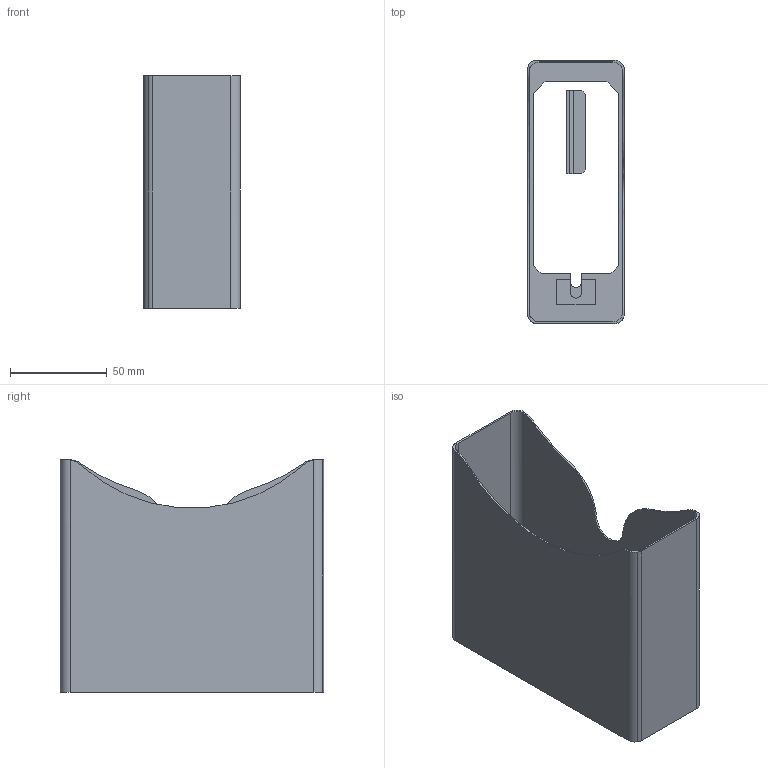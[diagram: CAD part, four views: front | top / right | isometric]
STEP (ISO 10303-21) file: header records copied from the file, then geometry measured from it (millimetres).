
FILE_DESCRIPTION(/* description */ (''),/* implementation_level */ '2;1');
FILE_NAME(/* name */ 'C:/Users/tatsu/Desktop/EyeRec_fix_3d/eyerec.stp',/* time_stamp */ '2026-05-14T22:04:41+09:00',/* author */ (''),/* organization */ (''),/* preprocessor_version */ 'ST-DEVELOPER v15.2',/* originating_system */ 'Autodesk Translator Framework v2.0.0.5431',/* authorisation */ '');
FILE_SCHEMA (('AUTOMOTIVE_DESIGN { 1 0 10303 214 3 1 1 }'));
Length unit declared in the file: centimetre
Products named in the file (1): eyerec
Bounding box: 50 x 136 x 120 mm (x, y, z)
Volume: 40574.3 mm3; surface area: 84576.5 mm2
Topology: 3 solids, 3 shells, 78 faces, 216 edges, 144 vertices
Faces by surface type: plane 51, cylinder 27
Entity records: 2557 total; most frequent: CARTESIAN_POINT 502, ORIENTED_EDGE 432, DIRECTION 413, EDGE_CURVE 216, LINE 151, VECTOR 151, VERTEX_POINT 144, AXIS2_PLACEMENT_3D 131
